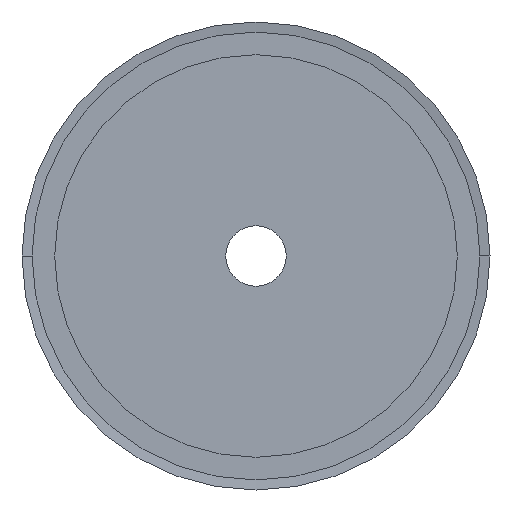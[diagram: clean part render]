
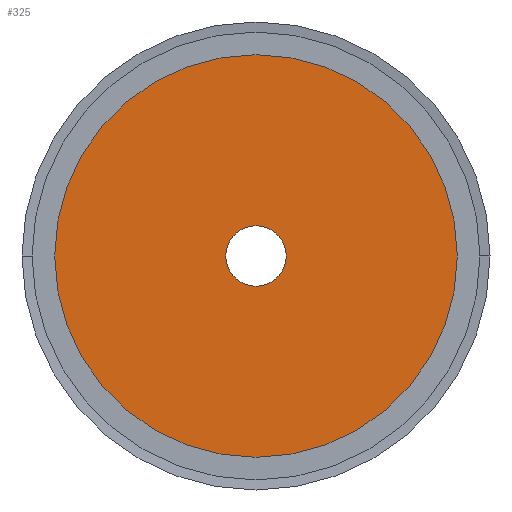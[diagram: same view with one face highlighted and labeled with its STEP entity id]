
A CAD part, left-side view. The second image highlights one B-rep face of the part: STEP entity #325.
In plain terms, the highlighted planar face has unit normal (-1, 0, 0).
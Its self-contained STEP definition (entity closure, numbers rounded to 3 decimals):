
#325 = ADVANCED_FACE( '', ( #833, #834 ), #835, .T. );
#833 = FACE_BOUND( '', #1342, .T. );
#834 = FACE_OUTER_BOUND( '', #1343, .T. );
#835 = PLANE( '', #1344 );
#1342 = EDGE_LOOP( '', ( #3539, #3540 ) );
#1343 = EDGE_LOOP( '', ( #3541, #3542 ) );
#1344 = AXIS2_PLACEMENT_3D( '', #3543, #3544, #3545 );
#3539 = ORIENTED_EDGE( '', *, *, #4264, .F. );
#3540 = ORIENTED_EDGE( '', *, *, #3561, .F. );
#3541 = ORIENTED_EDGE( '', *, *, #3549, .T. );
#3542 = ORIENTED_EDGE( '', *, *, #4269, .T. );
#3543 = CARTESIAN_POINT( '', ( 0., 23., 0. ) );
#3544 = DIRECTION( '', ( -1., 0., 0. ) );
#3545 = DIRECTION( '', ( 0., 1., 0. ) );
#3549 = EDGE_CURVE( '', #4271, #4275, #4277, .T. );
#3561 = EDGE_CURVE( '', #4299, #4295, #4301, .T. );
#4264 = EDGE_CURVE( '', #4295, #4299, #5468, .T. );
#4269 = EDGE_CURVE( '', #4275, #4271, #5473, .T. );
#4271 = VERTEX_POINT( '', #5475 );
#4275 = VERTEX_POINT( '', #5480 );
#4277 = CIRCLE( '', #5483, 40. );
#4295 = VERTEX_POINT( '', #5505 );
#4299 = VERTEX_POINT( '', #5510 );
#4301 = CIRCLE( '', #5513, 6. );
#5468 = CIRCLE( '', #7084, 6. );
#5473 = CIRCLE( '', #7089, 40. );
#5475 = CARTESIAN_POINT( '', ( 0., 40., 0. ) );
#5480 = CARTESIAN_POINT( '', ( 0., -40., 0. ) );
#5483 = AXIS2_PLACEMENT_3D( '', #7095, #7096, #7097 );
#5505 = CARTESIAN_POINT( '', ( 0., 6., 0. ) );
#5510 = CARTESIAN_POINT( '', ( 0., -6., 0. ) );
#5513 = AXIS2_PLACEMENT_3D( '', #7119, #7120, #7121 );
#7084 = AXIS2_PLACEMENT_3D( '', #8420, #8421, #8422 );
#7089 = AXIS2_PLACEMENT_3D( '', #8435, #8436, #8437 );
#7095 = CARTESIAN_POINT( '', ( 0., 0., 0. ) );
#7096 = DIRECTION( '', ( -1., 0., 0. ) );
#7097 = DIRECTION( '', ( 0., 1., 0. ) );
#7119 = CARTESIAN_POINT( '', ( 0., 0., 0. ) );
#7120 = DIRECTION( '', ( -1., 0., 0. ) );
#7121 = DIRECTION( '', ( 0., 1., 0. ) );
#8420 = CARTESIAN_POINT( '', ( 0., 0., 0. ) );
#8421 = DIRECTION( '', ( -1., 0., 0. ) );
#8422 = DIRECTION( '', ( 0., 1., 0. ) );
#8435 = CARTESIAN_POINT( '', ( 0., 0., 0. ) );
#8436 = DIRECTION( '', ( -1., 0., 0. ) );
#8437 = DIRECTION( '', ( 0., 1., 0. ) );
